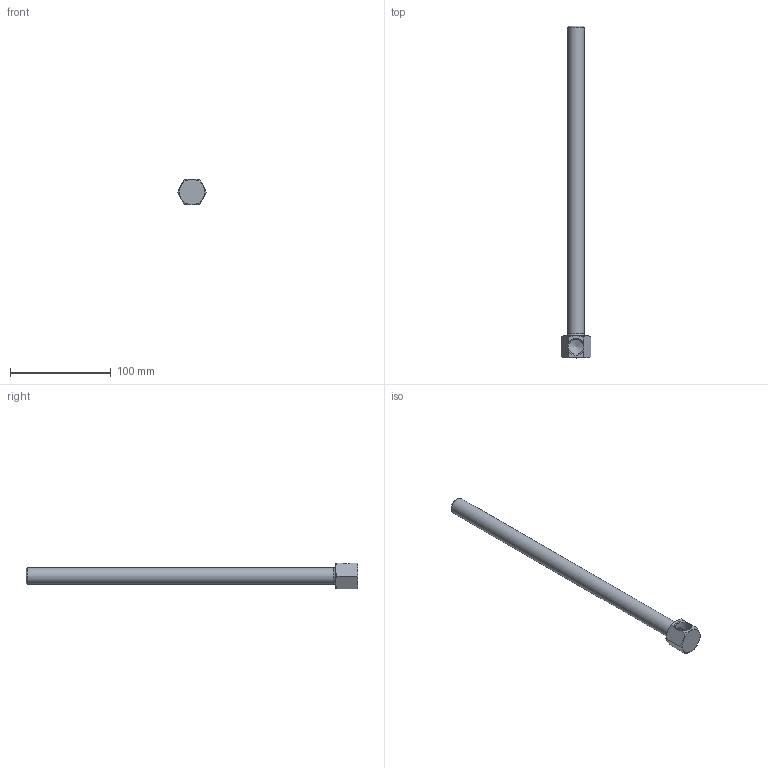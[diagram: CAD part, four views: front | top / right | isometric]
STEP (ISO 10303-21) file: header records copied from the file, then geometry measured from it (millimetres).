
FILE_DESCRIPTION(/* description */ (''),/* implementation_level */ '2;1');
FILE_NAME(/* name */ 'C:/Users/drich/Desktop/38B-13 v1.step',/* time_stamp */ '2019-12-29T15:24:22-06:00',/* author */ (''),/* organization */ (''),/* preprocessor_version */ 'ST-DEVELOPER v18',/* originating_system */ 'Autodesk Translation Framework v8.12.0.6',/* authorisation */ '');
FILE_SCHEMA (('AUTOMOTIVE_DESIGN { 1 0 10303 214 3 1 1 }'));
Length unit declared in the file: inch
Products named in the file (1): 38B-13
Bounding box: 29.33 x 330.2 x 25.4 mm (x, y, z)
Volume: 40233.7 mm3; surface area: 31270.8 mm2
Topology: 1 solids, 1 shells, 20 faces, 53 edges, 35 vertices
Faces by surface type: plane 10, cone 6, cylinder 3, torus 1
Full cylindrical faces by diameter (mm): 11.887 x1, 15.173 x1, 16.537 x1
Entity records: 687 total; most frequent: CARTESIAN_POINT 184, ORIENTED_EDGE 104, DIRECTION 91, EDGE_CURVE 52, AXIS2_PLACEMENT_3D 37, VERTEX_POINT 35, EDGE_LOOP 23, FACE_OUTER_BOUND 20
